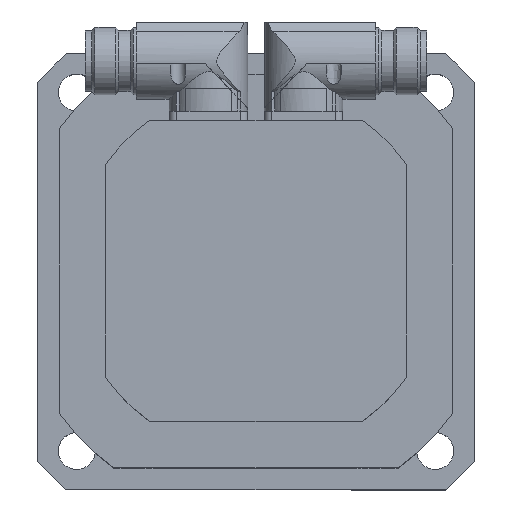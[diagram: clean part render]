
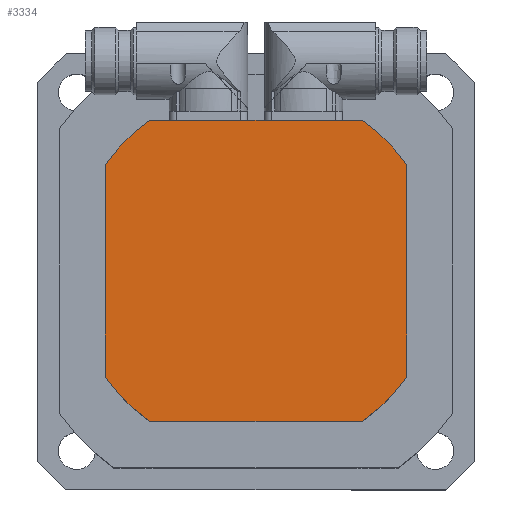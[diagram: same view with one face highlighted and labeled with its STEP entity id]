
A CAD part, top view. The second image highlights one B-rep face of the part: STEP entity #3334.
In plain terms, the highlighted planar face has unit normal (0, 0, 1).
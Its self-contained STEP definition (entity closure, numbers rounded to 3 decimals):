
#744=CIRCLE('',#3550,60.);
#745=CIRCLE('',#3552,60.);
#746=CIRCLE('',#3554,60.);
#747=CIRCLE('',#3556,60.);
#970=VERTEX_POINT('',#5121);
#971=VERTEX_POINT('',#5123);
#972=VERTEX_POINT('',#5127);
#973=VERTEX_POINT('',#5129);
#978=VERTEX_POINT('',#5145);
#979=VERTEX_POINT('',#5147);
#980=VERTEX_POINT('',#5151);
#981=VERTEX_POINT('',#5153);
#1263=VECTOR('',#4102,1.);
#1266=VECTOR('',#4106,1.);
#1269=VECTOR('',#4124,1.);
#1272=VECTOR('',#4128,1.);
#1494=LINE('',#5122,#1263);
#1497=LINE('',#5128,#1266);
#1500=LINE('',#5146,#1269);
#1503=LINE('',#5152,#1272);
#1787=EDGE_CURVE('',#971,#970,#1494,.T.);
#1790=EDGE_CURVE('',#973,#972,#1497,.T.);
#1797=EDGE_CURVE('',#979,#978,#1500,.T.);
#1800=EDGE_CURVE('',#981,#980,#1503,.T.);
#1802=EDGE_CURVE('',#973,#980,#744,.T.);
#1803=EDGE_CURVE('',#979,#972,#745,.T.);
#1804=EDGE_CURVE('',#971,#978,#746,.T.);
#1805=EDGE_CURVE('',#981,#970,#747,.T.);
#2450=ORIENTED_EDGE('',*,*,#1787,.T.);
#2451=ORIENTED_EDGE('',*,*,#1805,.F.);
#2452=ORIENTED_EDGE('',*,*,#1800,.T.);
#2453=ORIENTED_EDGE('',*,*,#1802,.F.);
#2454=ORIENTED_EDGE('',*,*,#1790,.T.);
#2455=ORIENTED_EDGE('',*,*,#1803,.F.);
#2456=ORIENTED_EDGE('',*,*,#1797,.T.);
#2457=ORIENTED_EDGE('',*,*,#1804,.F.);
#2933=EDGE_LOOP('',(#2450,#2451,#2452,#2453,#2454,#2455,#2456,#2457));
#3147=FACE_BOUND('',#2933,.T.);
#3334=ADVANCED_FACE('',(#3147),#6025,.F.);
#3550=AXIS2_PLACEMENT_3D('',#5156,#4132,#4133);
#3552=AXIS2_PLACEMENT_3D('',#5158,#4136,#4137);
#3554=AXIS2_PLACEMENT_3D('',#5160,#4140,#4141);
#3556=AXIS2_PLACEMENT_3D('',#5162,#4144,#4145);
#3557=AXIS2_PLACEMENT_3D('',#5163,#4146,$);
#4102=DIRECTION('',(0.,-1.,0.));
#4106=DIRECTION('',(0.,1.,0.));
#4124=DIRECTION('',(-1.,0.,0.));
#4128=DIRECTION('',(1.,0.,0.));
#4132=DIRECTION('',(0.,0.,-1.));
#4133=DIRECTION('',(-60.,0.,0.));
#4136=DIRECTION('',(0.,0.,-1.));
#4137=DIRECTION('',(-60.,0.,0.));
#4140=DIRECTION('',(0.,0.,-1.));
#4141=DIRECTION('',(-60.,0.,0.));
#4144=DIRECTION('',(0.,0.,-1.));
#4145=DIRECTION('',(-60.,0.,0.));
#4146=DIRECTION('',(0.,0.,-1.));
#5121=CARTESIAN_POINT('',(-49.,-34.627,45.));
#5122=CARTESIAN_POINT('',(-49.,34.627,45.));
#5123=CARTESIAN_POINT('',(-49.,34.627,45.));
#5127=CARTESIAN_POINT('',(49.,34.627,45.));
#5128=CARTESIAN_POINT('',(49.,-34.627,45.));
#5129=CARTESIAN_POINT('',(49.,-34.627,45.));
#5145=CARTESIAN_POINT('',(-34.627,49.,45.));
#5146=CARTESIAN_POINT('',(34.627,49.,45.));
#5147=CARTESIAN_POINT('',(34.627,49.,45.));
#5151=CARTESIAN_POINT('',(34.627,-49.,45.));
#5152=CARTESIAN_POINT('',(-34.627,-49.,45.));
#5153=CARTESIAN_POINT('',(-34.627,-49.,45.));
#5156=CARTESIAN_POINT('',(0.,0.,45.));
#5158=CARTESIAN_POINT('',(0.,0.,45.));
#5160=CARTESIAN_POINT('',(0.,0.,45.));
#5162=CARTESIAN_POINT('',(0.,0.,45.));
#5163=CARTESIAN_POINT('',(0.,0.,45.));
#6025=PLANE('',#3557);
